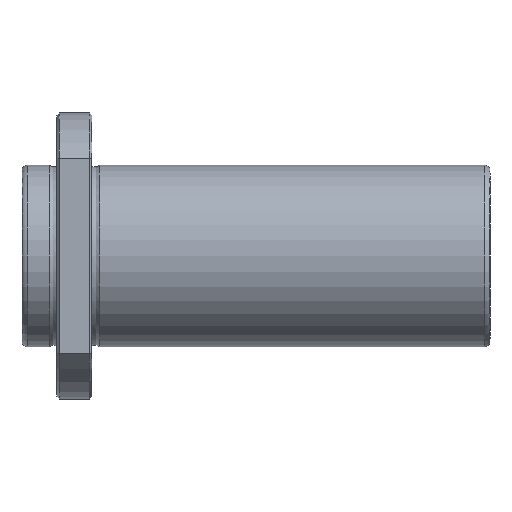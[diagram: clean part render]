
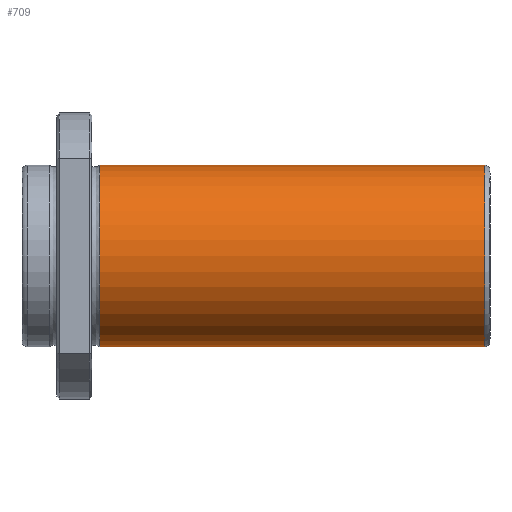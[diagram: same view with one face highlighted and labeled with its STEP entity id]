
A CAD part, front view. The second image highlights one B-rep face of the part: STEP entity #709.
In plain terms, the highlighted cylindrical face has radius 26 mm (diameter 52 mm), a full revolution.
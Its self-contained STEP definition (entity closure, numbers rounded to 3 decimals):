
#675=CARTESIAN_POINT('',(132.502,0.0,26.));
#676=VERTEX_POINT('',#675);
#677=CARTESIAN_POINT('',(132.502,0.0,0.0));
#678=DIRECTION('',(-1.0,0.0,0.0));
#679=DIRECTION('',(0.0,0.0,1.0));
#680=AXIS2_PLACEMENT_3D('',#677,#678,#679);
#681=CIRCLE('',#680,26.);
#682=EDGE_CURVE('',#676,#676,#681,.T.);
#690=CARTESIAN_POINT('',(77.362,0.0,0.0));
#691=DIRECTION('',(-1.0,0.0,0.0));
#692=DIRECTION('',(0.0,0.0,1.0));
#693=AXIS2_PLACEMENT_3D('',#690,#691,#692);
#694=CYLINDRICAL_SURFACE('',#693,26.);
#695=CARTESIAN_POINT('',(22.223,0.0,26.));
#696=VERTEX_POINT('',#695);
#697=CARTESIAN_POINT('',(22.223,0.0,0.0));
#698=DIRECTION('',(-1.0,0.0,0.0));
#699=DIRECTION('',(0.0,0.0,1.0));
#700=AXIS2_PLACEMENT_3D('',#697,#698,#699);
#701=CIRCLE('',#700,26.);
#702=EDGE_CURVE('',#696,#696,#701,.T.);
#703=ORIENTED_EDGE('',*,*,#702,.F.);
#704=EDGE_LOOP('',(#703));
#705=FACE_OUTER_BOUND('',#704,.T.);
#706=ORIENTED_EDGE('',*,*,#682,.T.);
#707=EDGE_LOOP('',(#706));
#708=FACE_BOUND('',#707,.T.);
#709=ADVANCED_FACE('',(#705,#708),#694,.T.);
